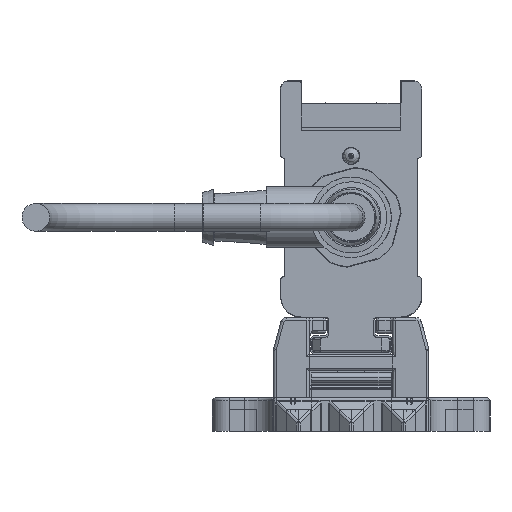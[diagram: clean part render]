
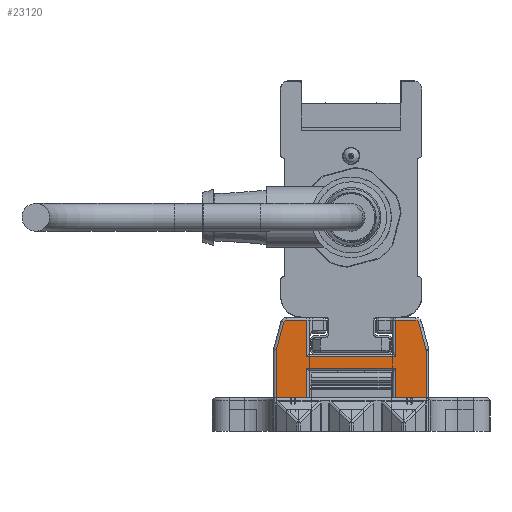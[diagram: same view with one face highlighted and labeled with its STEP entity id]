
A CAD part, left-side view. The second image highlights one B-rep face of the part: STEP entity #23120.
In plain terms, the highlighted planar face has unit normal (-1, 0, 0).
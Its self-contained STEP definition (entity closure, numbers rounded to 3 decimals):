
#23120=ADVANCED_FACE('', (#23130), #23140, .T.);
#117610=AXIS2_PLACEMENT_3D('Ax2Pl3d', #117620, #117630, #117640);
#117850=AXIS2_PLACEMENT_3D('Ax2Pl3d', #117860, #117870, #117880);
#122730=AXIS2_PLACEMENT_3D('Ax2Pl3d', #122740, #122750, #122760);
#127810=AXIS2_PLACEMENT_3D('Ax2Pl3d', #127820, #127830, #127840);
#137490=AXIS2_PLACEMENT_3D('Ax2Pl3d', #137500, #137510, #137520);
#453240=CARTESIAN_POINT('', (-747.669,-1606.345,
331.37));
#117620=CARTESIAN_POINT('HicPkt', (-747.669,-1605.379,
331.111));
#453250=CARTESIAN_POINT('', (-747.669,-1606.379,331.111)
);
#453260=CARTESIAN_POINT('', (-747.669,-1605.037,
336.255));
#453280=CARTESIAN_POINT('', (-747.669,-1605.037,
336.255));
#453310=CARTESIAN_POINT('', (-747.669,-1604.554,
336.625));
#117860=CARTESIAN_POINT('HicPkt', (-747.669,-1604.554,
336.125));
#453530=CARTESIAN_POINT('', (-747.669,-1606.379,322.625)
);
#453540=CARTESIAN_POINT('', (-747.669,-1600.881,322.625)
);
#453550=CARTESIAN_POINT('', (-747.669,-1600.881,322.625)
);
#453630=CARTESIAN_POINT('', (-747.669,-1584.881,322.625)
);
#453640=CARTESIAN_POINT('', (-747.669,-1579.383,322.625)
);
#453650=CARTESIAN_POINT('', (-747.669,-1579.383,322.625)
);
#122740=CARTESIAN_POINT('HicPkt', (-747.669,-1581.209,
336.125));
#456120=CARTESIAN_POINT('', (-747.669,-1580.726,
336.255));
#456130=CARTESIAN_POINT('', (-747.669,-1581.209,336.625)
);
#456140=CARTESIAN_POINT('', (-747.669,-1600.881,
330.025));
#456150=CARTESIAN_POINT('', (-747.669,-1584.881,
330.025));
#456160=CARTESIAN_POINT('', (-747.669,-1600.881,
330.025));
#456320=CARTESIAN_POINT('', (-747.669,-1600.881,
328.005));
#456330=CARTESIAN_POINT('', (-747.669,-1584.881,
328.005));
#456340=CARTESIAN_POINT('', (-747.669,-1584.881,
328.005));
#456350=CARTESIAN_POINT('', (-747.669,-1600.881,
328.005));
#456370=CARTESIAN_POINT('', (-747.669,-1584.881,322.625)
);
#456380=CARTESIAN_POINT('', (-747.669,-1584.881,
330.025));
#456390=CARTESIAN_POINT('', (-747.669,-1584.881,
336.625));
#457240=CARTESIAN_POINT('', (-747.669,-1584.881,
336.625));
#457250=CARTESIAN_POINT('', (-747.669,-1580.726,
336.255));
#457260=CARTESIAN_POINT('', (-747.669,-1579.417,
331.37));
#457450=CARTESIAN_POINT('', (-747.669,-1579.383,
331.111));
#457460=CARTESIAN_POINT('', (-747.669,-1579.383,
331.111));
#127820=CARTESIAN_POINT('HicPkt', (-747.669,-1580.383,
331.111));
#458270=CARTESIAN_POINT('', (-747.669,-1606.379,331.111)
);
#137500=CARTESIAN_POINT('HicPkt', (-747.669,-1604.554,
336.625));
#460070=CARTESIAN_POINT('', (-747.669,-1600.881,
336.625));
#460080=CARTESIAN_POINT('', (-747.669,-1600.881,
336.625));
#460090=CARTESIAN_POINT('', (-747.669,-1600.881,
336.625));
#522140=CIRCLE('Circle', #117610, 1.);
#522180=CIRCLE('Circle', #117850, 0.5);
#522760=CIRCLE('Circle', #122730, 0.5);
#523290=CIRCLE('Circle', #127810, 1.);
#117630=DIRECTION('Axis', (-1.,0.,
0.));
#117640=DIRECTION('RefDirection', (0.,
0.,-1.));
#730180=DIRECTION('', (0.,0.259,
0.966));
#117870=DIRECTION('Axis', (-1.,0.,
0.));
#117880=DIRECTION('RefDirection', (0.,
0.,-1.));
#730290=DIRECTION('', (0.,1.,0.));
#730330=DIRECTION('', (0.,1.,0.));
#122750=DIRECTION('Axis', (1.,0.,
0.));
#122760=DIRECTION('RefDirection', (0.,
0.,-1.));
#731520=DIRECTION('', (0.,-1.,0.));
#731620=DIRECTION('', (0.,1.,0.));
#731630=DIRECTION('', (0.,0.,1.));
#731650=DIRECTION('', (0.,0.,-1.));
#731660=DIRECTION('', (0.,0.,-1.));
#732090=DIRECTION('', (0.,-1.,0.));
#732100=DIRECTION('', (0.,-0.259,0.966));
#732190=DIRECTION('', (0.,0.,1.));
#127830=DIRECTION('Axis', (1.,0.,
0.));
#127840=DIRECTION('RefDirection', (0.,
0.,-1.));
#732560=DIRECTION('', (0.,0.,1.));
#137510=DIRECTION('Axis', (-1.,0.,
0.));
#137520=DIRECTION('RefDirection', (0.,
0.,-1.));
#733400=DIRECTION('', (0.,1.,0.));
#733410=DIRECTION('', (0.,0.,1.));
#785930=EDGE_CURVE('', #785940, #785920, #522140, .T.);
#785990=EDGE_CURVE('', #785920, #785970, #786000, .T.);
#786060=EDGE_CURVE('', #785970, #786050, #522180, .T.);
#786510=EDGE_CURVE('', #786500, #786520, #786530, .T.);
#786670=EDGE_CURVE('', #786660, #786680, #786690, .T.);
#791030=EDGE_CURVE('', #791040, #791050, #522760, .T.);
#791080=EDGE_CURVE('', #791090, #791100, #791110, .T.);
#791450=EDGE_CURVE('', #791430, #791460, #791470, .T.);
#791500=EDGE_CURVE('', #786520, #791430, #791510, .T.);
#791540=EDGE_CURVE('', #791460, #786660, #791550, .T.);
#791560=EDGE_CURVE('', #791570, #791090, #791580, .T.);
#793400=EDGE_CURVE('', #791050, #791570, #793410, .T.);
#793470=EDGE_CURVE('', #793480, #791040, #793490, .T.);
#793910=EDGE_CURVE('', #786680, #793920, #793930, .T.);
#793950=EDGE_CURVE('', #793920, #793480, #523290, .T.);
#795660=EDGE_CURVE('', #786500, #785940, #795670, .T.);
#799470=EDGE_CURVE('', #786050, #799480, #799490, .T.);
#799500=EDGE_CURVE('', #791100, #799480, #799510, .T.);
#950330=EDGE_LOOP('Edge_loop', (#950340,#950350,#950360,#950370,#950380,
#950390,#950400,#950410,#950420,#950430,#950440,#950450,#950460,#950470,
#950480,#950490,#950500,#950510));
#23130=FACE_OUTER_BOUND('Face_outer_bound', #950330, .T.);
#786000=LINE('Line', #453280, #1078570);
#786530=LINE('Line', #453540, #1078680);
#786690=LINE('Line', #453640, #1078720);
#791110=LINE('Line', #456140, #1079910);
#791470=LINE('Line', #456330, #1080010);
#791510=LINE('Line', #456350, #1080020);
#791550=LINE('Line', #456370, #1080040);
#791580=LINE('Line', #456380, #1080050);
#793410=LINE('Line', #457240, #1080480);
#793490=LINE('Line', #457250, #1080490);
#793930=LINE('Line', #457450, #1080580);
#795670=LINE('Line', #458270, #1080950);
#799490=LINE('Line', #460070, #1081790);
#799510=LINE('Line', #460090, #1081800);
#950340=ORIENTED_EDGE('', *, *, #799470, .T.);
#950350=ORIENTED_EDGE('', *, *, #799500, .F.);
#950360=ORIENTED_EDGE('', *, *, #791080, .F.);
#950370=ORIENTED_EDGE('', *, *, #791560, .F.);
#950380=ORIENTED_EDGE('', *, *, #793400, .F.);
#950390=ORIENTED_EDGE('', *, *, #791030, .F.);
#950400=ORIENTED_EDGE('', *, *, #793470, .F.);
#950410=ORIENTED_EDGE('', *, *, #793950, .F.);
#950420=ORIENTED_EDGE('', *, *, #793910, .F.);
#950430=ORIENTED_EDGE('', *, *, #786670, .F.);
#950440=ORIENTED_EDGE('', *, *, #791540, .F.);
#950450=ORIENTED_EDGE('', *, *, #791450, .F.);
#950460=ORIENTED_EDGE('', *, *, #791500, .F.);
#950470=ORIENTED_EDGE('', *, *, #786510, .F.);
#950480=ORIENTED_EDGE('', *, *, #795660, .T.);
#950490=ORIENTED_EDGE('', *, *, #785930, .T.);
#950500=ORIENTED_EDGE('', *, *, #785990, .T.);
#950510=ORIENTED_EDGE('', *, *, #786060, .T.);
#23140=PLANE('Plane', #137490);
#1078570=VECTOR('', #730180, 5.057);
#1078680=VECTOR('', #730290, 5.498);
#1078720=VECTOR('', #730330, 5.498);
#1079910=VECTOR('', #731520, 16.);
#1080010=VECTOR('', #731620, 16.);
#1080020=VECTOR('', #731630, 5.38);
#1080040=VECTOR('', #731650, 5.38);
#1080050=VECTOR('', #731660, 6.6);
#1080480=VECTOR('', #732090, 3.672);
#1080490=VECTOR('', #732100, 5.057);
#1080580=VECTOR('', #732190, 8.486);
#1080950=VECTOR('', #732560, 8.486);
#1081790=VECTOR('', #733400, 3.672);
#1081800=VECTOR('', #733410, 6.6);
#785920=VERTEX_POINT('', #453240);
#785940=VERTEX_POINT('', #453250);
#785970=VERTEX_POINT('', #453260);
#786050=VERTEX_POINT('', #453310);
#786500=VERTEX_POINT('', #453530);
#786520=VERTEX_POINT('', #453550);
#786660=VERTEX_POINT('', #453630);
#786680=VERTEX_POINT('', #453650);
#791040=VERTEX_POINT('', #456120);
#791050=VERTEX_POINT('', #456130);
#791090=VERTEX_POINT('', #456150);
#791100=VERTEX_POINT('', #456160);
#791430=VERTEX_POINT('', #456320);
#791460=VERTEX_POINT('', #456340);
#791570=VERTEX_POINT('', #456390);
#793480=VERTEX_POINT('', #457260);
#793920=VERTEX_POINT('', #457460);
#799480=VERTEX_POINT('', #460080);
